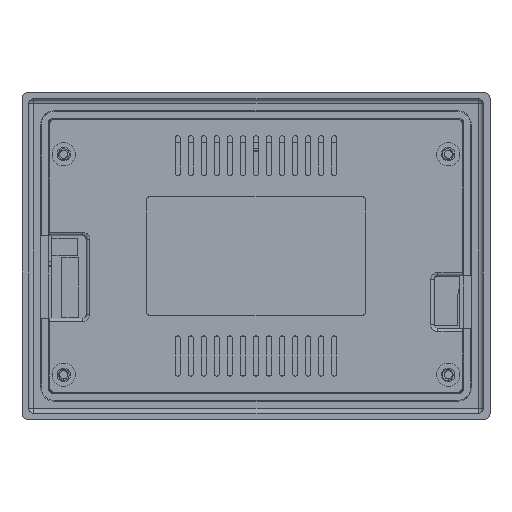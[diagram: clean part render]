
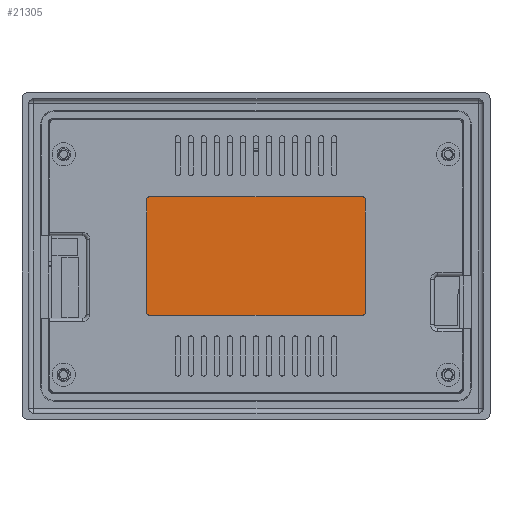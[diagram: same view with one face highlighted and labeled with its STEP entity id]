
A CAD part, top view. The second image highlights one B-rep face of the part: STEP entity #21305.
In plain terms, the highlighted planar face has unit normal (0, 0, 1).
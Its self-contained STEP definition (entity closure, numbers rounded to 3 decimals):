
#7815=DIRECTION('',(0.,1.,0.));
#7816=VECTOR('',#7815,33.5);
#7817=CARTESIAN_POINT('',(103.998,214.44,12.7));
#7818=LINE('',#7817,#7816);
#7819=CARTESIAN_POINT('',(104.998,247.94,12.7));
#7820=DIRECTION('',(0.,0.,-1.));
#7821=DIRECTION('',(-1.,0.,0.));
#7822=AXIS2_PLACEMENT_3D('',#7819,#7820,#7821);
#7824=DIRECTION('',(1.,0.,0.));
#7825=VECTOR('',#7824,63.5);
#7826=CARTESIAN_POINT('',(104.998,248.94,12.7));
#7827=LINE('',#7826,#7825);
#7828=CARTESIAN_POINT('',(168.498,247.94,12.7));
#7829=DIRECTION('',(0.,0.,-1.));
#7830=DIRECTION('',(0.,1.,0.));
#7831=AXIS2_PLACEMENT_3D('',#7828,#7829,#7830);
#7833=DIRECTION('',(0.,-1.,0.));
#7834=VECTOR('',#7833,33.5);
#7835=CARTESIAN_POINT('',(169.498,247.94,12.7));
#7836=LINE('',#7835,#7834);
#7837=CARTESIAN_POINT('',(168.498,214.44,12.7));
#7838=DIRECTION('',(0.,0.,-1.));
#7839=DIRECTION('',(1.,0.,0.));
#7840=AXIS2_PLACEMENT_3D('',#7837,#7838,#7839);
#7842=DIRECTION('',(-1.,0.,0.));
#7843=VECTOR('',#7842,63.5);
#7844=CARTESIAN_POINT('',(168.498,213.44,12.7));
#7845=LINE('',#7844,#7843);
#7846=CARTESIAN_POINT('',(104.998,214.44,12.7));
#7847=DIRECTION('',(0.,0.,-1.));
#7848=DIRECTION('',(0.,-1.,0.));
#7849=AXIS2_PLACEMENT_3D('',#7846,#7847,#7848);
#10282=CARTESIAN_POINT('',(169.498,247.94,12.7));
#10283=CARTESIAN_POINT('',(169.498,214.44,12.7));
#10284=VERTEX_POINT('',#10282);
#10285=VERTEX_POINT('',#10283);
#10286=CARTESIAN_POINT('',(103.998,214.44,12.7));
#10287=CARTESIAN_POINT('',(103.998,247.94,12.7));
#10288=VERTEX_POINT('',#10286);
#10289=VERTEX_POINT('',#10287);
#10290=CARTESIAN_POINT('',(104.998,248.94,12.7));
#10291=VERTEX_POINT('',#10290);
#10292=CARTESIAN_POINT('',(168.498,248.94,12.7));
#10293=VERTEX_POINT('',#10292);
#10294=CARTESIAN_POINT('',(168.498,213.44,12.7));
#10295=VERTEX_POINT('',#10294);
#10296=CARTESIAN_POINT('',(104.998,213.44,12.7));
#10297=VERTEX_POINT('',#10296);
#21283=CARTESIAN_POINT('',(103.998,248.94,12.7));
#21284=DIRECTION('',(0.,0.,-1.));
#21285=DIRECTION('',(-1.,0.,0.));
#21286=AXIS2_PLACEMENT_3D('',#21283,#21284,#21285);
#21287=PLANE('',#21286);
#21289=ORIENTED_EDGE('',*,*,#21288,.T.);
#21291=ORIENTED_EDGE('',*,*,#21290,.T.);
#21293=ORIENTED_EDGE('',*,*,#21292,.T.);
#21295=ORIENTED_EDGE('',*,*,#21294,.T.);
#21296=ORIENTED_EDGE('',*,*,#21273,.T.);
#21298=ORIENTED_EDGE('',*,*,#21297,.T.);
#21300=ORIENTED_EDGE('',*,*,#21299,.T.);
#21302=ORIENTED_EDGE('',*,*,#21301,.T.);
#21303=EDGE_LOOP('',(#21289,#21291,#21293,#21295,#21296,#21298,#21300,#21302));
#21304=FACE_OUTER_BOUND('',#21303,.F.);
#7823=CIRCLE('',#7822,1.);
#7832=CIRCLE('',#7831,1.);
#7841=CIRCLE('',#7840,1.);
#7850=CIRCLE('',#7849,1.);
#21273=EDGE_CURVE('',#10284,#10285,#7836,.T.);
#21288=EDGE_CURVE('',#10288,#10289,#7818,.T.);
#21290=EDGE_CURVE('',#10289,#10291,#7823,.T.);
#21292=EDGE_CURVE('',#10291,#10293,#7827,.T.);
#21294=EDGE_CURVE('',#10293,#10284,#7832,.T.);
#21297=EDGE_CURVE('',#10285,#10295,#7841,.T.);
#21299=EDGE_CURVE('',#10295,#10297,#7845,.T.);
#21301=EDGE_CURVE('',#10297,#10288,#7850,.T.);
#21305=ADVANCED_FACE('',(#21304),#21287,.F.);
